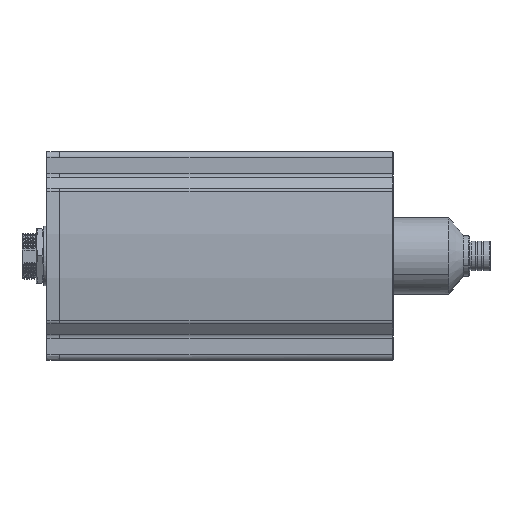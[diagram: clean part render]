
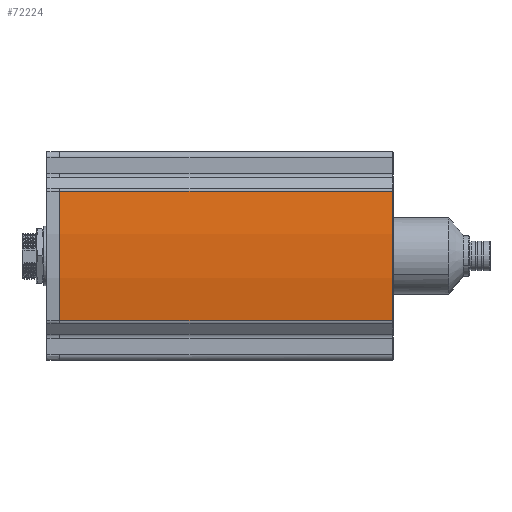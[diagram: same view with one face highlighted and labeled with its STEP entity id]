
A CAD part, front view. The second image highlights one B-rep face of the part: STEP entity #72224.
In plain terms, the highlighted cylindrical face has radius 165.451 mm (diameter 330.901 mm), a partial arc.
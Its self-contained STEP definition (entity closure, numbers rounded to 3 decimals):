
#3822=CARTESIAN_POINT('',(82.7,130.654,0.));
#3823=DIRECTION('',(1.,0.,0.));
#3824=DIRECTION('',(0.,-0.987,0.158));
#3825=AXIS2_PLACEMENT_3D('',#3822,#3823,#3824);
#8747=DIRECTION('',(1.,0.,0.));
#8748=VECTOR('',#8747,134.7);
#8749=CARTESIAN_POINT('',(-52.,-32.706,-26.212));
#8750=LINE('',#8749,#8748);
#8764=CARTESIAN_POINT('',(-52.,130.39,0.));
#8765=DIRECTION('',(-1.,0.,0.));
#8766=DIRECTION('',(0.,-0.987,-0.159));
#8767=AXIS2_PLACEMENT_3D('',#8764,#8765,#8766);
#8769=DIRECTION('',(-1.,0.,0.));
#8770=VECTOR('',#8769,134.7);
#8771=CARTESIAN_POINT('',(82.7,-32.707,26.212));
#8772=LINE('',#8771,#8770);
#51224=CARTESIAN_POINT('',(82.7,-32.707,-26.212));
#51225=VERTEX_POINT('',#51224);
#51226=CARTESIAN_POINT('',(82.7,-32.707,26.212));
#51227=VERTEX_POINT('',#51226);
#56376=CARTESIAN_POINT('',(-52.,-32.707,-26.213));
#56378=VERTEX_POINT('',#56376);
#56379=CARTESIAN_POINT('',(-52.,-32.707,26.212));
#56380=VERTEX_POINT('',#56379);
#72212=CARTESIAN_POINT('',(83.,130.654,0.));
#72213=DIRECTION('',(-1.,0.,0.));
#72214=DIRECTION('',(0.,0.987,0.158));
#72215=AXIS2_PLACEMENT_3D('',#72212,#72213,#72214);
#72216=CYLINDRICAL_SURFACE('',#72215,165.451);
#72217=ORIENTED_EDGE('',*,*,#72173,.F.);
#72218=ORIENTED_EDGE('',*,*,#72203,.T.);
#72220=ORIENTED_EDGE('',*,*,#72219,.F.);
#72221=ORIENTED_EDGE('',*,*,#64645,.T.);
#72222=EDGE_LOOP('',(#72217,#72218,#72220,#72221));
#72223=FACE_OUTER_BOUND('',#72222,.F.);
#72224=ADVANCED_FACE('',(#72223),#72216,.T.);
#3826=CIRCLE('',#3825,165.451);
#8768=CIRCLE('',#8767,165.19);
#64645=EDGE_CURVE('',#51227,#51225,#3826,.T.);
#72173=EDGE_CURVE('',#56378,#51225,#8750,.T.);
#72203=EDGE_CURVE('',#56378,#56380,#8768,.T.);
#72219=EDGE_CURVE('',#51227,#56380,#8772,.T.);
